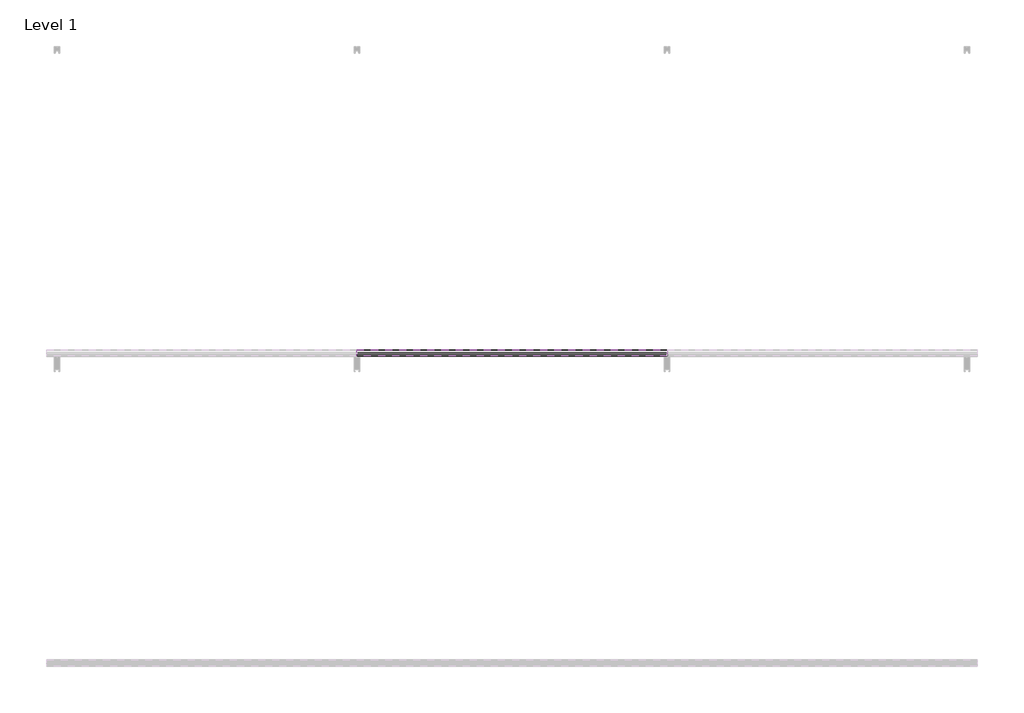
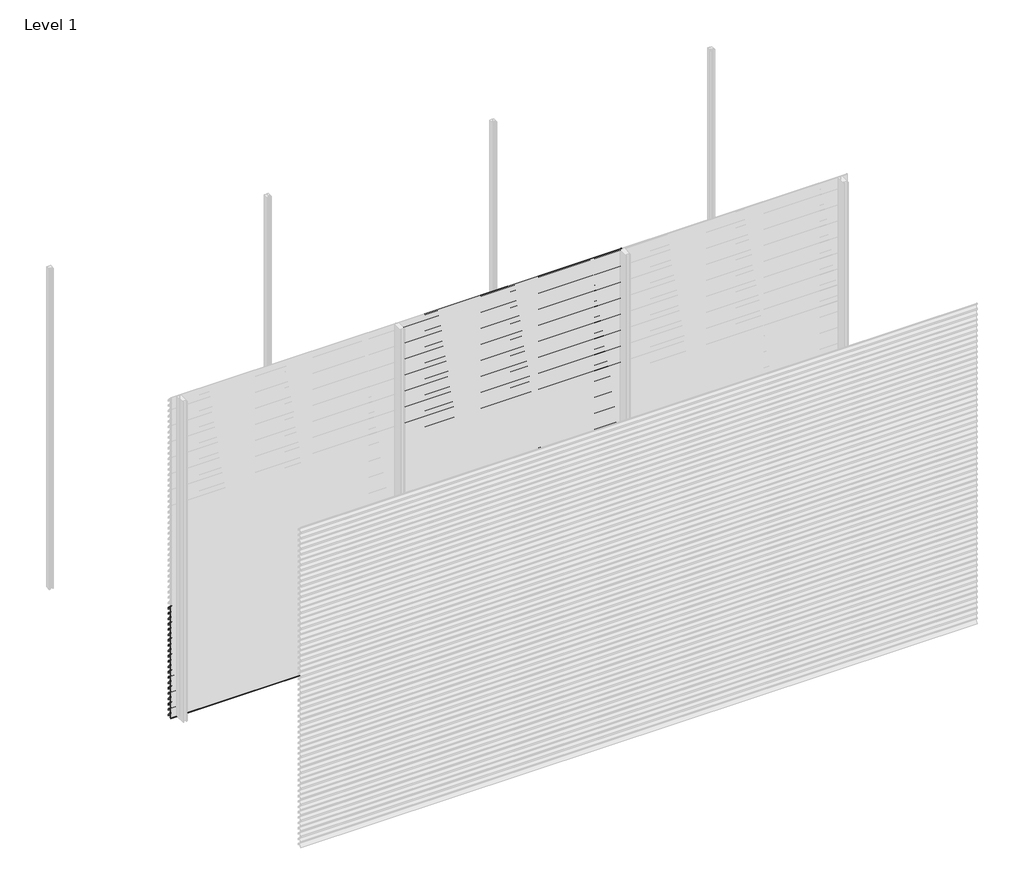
# One storey, part 26 of 38: 66 proxies.
"""IFC4 building model written with IfcOpenShell, lengths in millimetres."""

import ifcopenshell
import ifcopenshell.guid

model = None  # the IFC model being written
_history = None  # IfcOwnerHistory: only IFC2X3 demands one
_inside = {}  # id of a spatial element -> (the spatial element, [elements in it])
_under = {}  # id of a project, library or spatial element -> (it, [spatial elements below it])
_declared = {}  # id of a project -> (the project, [libraries it declares])
_typed = {}  # id of a type object -> (the type object, [elements of that type])
_made_of = {}  # id of a material, layer set ... -> (it, [elements and type objects made of it])


def new_model(schema):
    """Start an empty IFC model of exactly this schema.

    Asked for "IFC4X3", IfcOpenShell would pick the latest addendum, in which some entities
    have other attributes; the version numbers below select the first issue.
    IFC2X3 requires an IfcOwnerHistory on every rooted entity: one is made here for all.
    """
    global model, _history
    if schema == "IFC4X3":
        model = ifcopenshell.file(schema_version=(4, 3, 0, 0))
    else:
        model = ifcopenshell.file(schema=schema)
    _inside.clear()
    _under.clear()
    _declared.clear()
    _typed.clear()
    _made_of.clear()
    _history = None
    if model.schema == "IFC2X3":
        org = make("IfcOrganization", Name="unknown")
        user = make(
            "IfcPersonAndOrganization",
            ThePerson=make("IfcPerson", FamilyName="unknown"),
            TheOrganization=org,
        )
        app = make(
            "IfcApplication",
            ApplicationDeveloper=org,
            Version="unknown",
            ApplicationFullName="unknown",
            ApplicationIdentifier="unknown",
        )
        _history = make(
            "IfcOwnerHistory",
            OwningUser=user,
            OwningApplication=app,
            ChangeAction="ADDED",
            CreationDate=0,
        )
    return model


def make(cls, **values):
    """One entity of the class cls with the attributes given. An attribute that is None is left unset."""
    return model.create_entity(
        cls, **{name: value for name, value in values.items() if value is not None}
    )


def rooted(cls, **values):
    """An entity with a GlobalId (a new one), such as an element, a storey or a relation."""
    return make(cls, GlobalId=ifcopenshell.guid.new(), OwnerHistory=_history, **values)


def si_unit(unit_type, name, prefix=None):
    """IfcSIUnit, for example si_unit("LENGTHUNIT", "METRE", prefix="MILLI")."""
    return make("IfcSIUnit", UnitType=unit_type, Prefix=prefix, Name=name)


def assignment(units):
    """IfcUnitAssignment: the units of a project."""
    return None if units is None else make("IfcUnitAssignment", Units=units)


def point(xyz):
    """IfcCartesianPoint."""
    return None if xyz is None else make("IfcCartesianPoint", Coordinates=xyz)


def direction(xyz):
    """IfcDirection."""
    return None if xyz is None else make("IfcDirection", DirectionRatios=xyz)


def frame(location, z_axis=None, x_axis=None):
    """IfcAxis2Placement3D, a coordinate frame: its origin and axes. An axis left out is left unset."""
    return make(
        "IfcAxis2Placement3D",
        Location=point(location),
        Axis=direction(z_axis),
        RefDirection=direction(x_axis),
    )


def origin():
    """The frame at (0, 0, 0) with its axes left unset."""
    return frame((0.0, 0.0, 0.0))


def place(relative_to, where):
    """IfcLocalPlacement: puts the frame where relative to a parent placement (None: the world)."""
    return make(
        "IfcLocalPlacement", PlacementRelTo=relative_to, RelativePlacement=where
    )


def context(
    kind, dimensions, precision=None, world=None, true_north=None, identifier=None
):
    """IfcGeometricRepresentationContext, for example the 3D "Model" context."""
    return make(
        "IfcGeometricRepresentationContext",
        ContextIdentifier=identifier,
        ContextType=kind,
        CoordinateSpaceDimension=dimensions,
        Precision=precision,
        WorldCoordinateSystem=world,
        TrueNorth=true_north,
    )


def project(units=None, contexts=None):
    """IfcProject with its units and contexts."""
    return rooted(
        "IfcProject",
        Name="project",
        RepresentationContexts=contexts,
        UnitsInContext=assignment(units),
    )


def spatial(cls, under=None, at=None, **own):
    """A site, building, storey or space (cls), placed at a placement, below another one or the project."""
    s = rooted(cls, ObjectPlacement=at, **own)
    if under is not None:
        _under.setdefault(under.id(), (under, []))[1].append(s)
    return s


def polyline(points):
    """IfcPolyline through the points."""
    return make("IfcPolyline", Points=[point(p) for p in points])


def outline(outer, holes=None, kind="AREA"):
    """IfcArbitraryClosedProfileDef: a profile drawn as a closed curve; with holes, ...WithVoids."""
    if holes is None:
        return make("IfcArbitraryClosedProfileDef", ProfileType=kind, OuterCurve=outer)
    return make(
        "IfcArbitraryProfileDefWithVoids",
        ProfileType=kind,
        OuterCurve=outer,
        InnerCurves=holes,
    )


def extrude(swept, where, along, depth):
    """IfcExtrudedAreaSolid: the profile swept, set in the frame where, extruded along a direction by depth."""
    return make(
        "IfcExtrudedAreaSolid",
        SweptArea=swept,
        Position=where,
        ExtrudedDirection=direction(along),
        Depth=depth,
    )


def shape(context_of_items, identifier, shape_type, items):
    """IfcShapeRepresentation: the items that make up one representation, for example the "Body"."""
    return make(
        "IfcShapeRepresentation",
        ContextOfItems=context_of_items,
        RepresentationIdentifier=identifier,
        RepresentationType=shape_type,
        Items=items,
    )


def made_of(thing, what):
    """Note that an element or type object is made of a material, layer set ...; save() writes the relation."""
    if what is not None:
        _made_of.setdefault(what.id(), (what, []))[1].append(thing)
    return thing


def element(
    cls,
    number,
    at=None,
    inside=None,
    cuts=None,
    type_object=None,
    material=None,
    context=None,
    identifier="Body",
    shape_type=None,
    held_by="IfcProductDefinitionShape",
    body=None,
    shapes=None,
    **own,
):
    """One element of the class cls, such as IfcWall. Its Tag is "e" and its number.

    at: its placement. inside: the storey or other place that contains it. cuts: it is an
    opening in that element (IfcRelVoidsElement). A single representation is given by context,
    identifier, shape_type and body (its items); several are given by shapes. held_by: the class
    of the entity that holds the representations. save() writes the other relations.
    """
    e = rooted(cls, Tag="e%d" % number, ObjectPlacement=at, **own)
    if body is not None:
        shapes = [shape(context, identifier, shape_type, body)]
    if shapes is not None:
        e.Representation = make(held_by, Representations=shapes)
    if inside is not None:
        _inside.setdefault(inside.id(), (inside, []))[1].append(e)
    if cuts is not None:
        rooted(
            "IfcRelVoidsElement", RelatingBuildingElement=cuts, RelatedOpeningElement=e
        )
    if type_object is not None:
        _typed.setdefault(type_object.id(), (type_object, []))[1].append(e)
    return made_of(e, material)


def aggregate(whole, parts):
    """IfcRelAggregates: a whole, such as a stair, and the parts it consists of."""
    return rooted("IfcRelAggregates", RelatingObject=whole, RelatedObjects=parts)


def save(model, path):
    """Write the relations noted so far, then the file.

    IfcRelAggregates (storeys below a building ...), IfcRelContainedInSpatialStructure (elements
    in a storey), IfcRelDefinesByType, IfcRelAssociatesMaterial and IfcRelDeclares: one each for
    every whole, place, type object, material and project.
    """
    for whole, parts in _under.values():
        aggregate(whole, parts)
    for where, things in _inside.values():
        rooted(
            "IfcRelContainedInSpatialStructure",
            RelatedElements=things,
            RelatingStructure=where,
        )
    for kind, things in _typed.values():
        rooted("IfcRelDefinesByType", RelatedObjects=things, RelatingType=kind)
    for what, things in _made_of.values():
        rooted("IfcRelAssociatesMaterial", RelatedObjects=things, RelatingMaterial=what)
    for by, libraries in _declared.values():
        rooted("IfcRelDeclares", RelatingContext=by, RelatedDefinitions=libraries)
    model.write(path)


model = new_model("IFC4")

# Units and contexts
model_context = context("Model", 3, world=origin())
ifc_project = project(units=[si_unit("LENGTHUNIT", "METRE", prefix="MILLI")], contexts=[model_context])

# Site, building, storey
site = spatial("IfcSite", under=ifc_project)
building = spatial("IfcBuilding", under=site)
storey = spatial("IfcBuildingStorey", under=building, Name="Level 1", Elevation=0.0)

# Proxies
placement = place(None, origin())
element("IfcBuildingElementProxy", 1, Name="Wall Sweeps", at=placement, inside=storey, context=model_context, shape_type="SweptSolid", body=[
    extrude(outline(polyline([(-17996.75, 1050.0), (-17996.75, 1039.19656), (-17974.6057113, 1026.4115489), (-17957.0, 1009.0472005), (-17957.0, 994.0472005), (-17958.3, 995.0268207), (-17958.3, 1008.5034593), (-17969.4914725, 1019.541504), (-17994.2797376, 990.0), (-17995.9767671, 990.0), (-17970.4200307, 1020.4573323), (-17975.3999793, 1025.3690091), (-17998.0, 1038.4171371), (-17998.0, 1050.0), (-17996.75, 1050.0)])), frame((0.0, 0.0, 0.0), z_axis=(1.0, 0.0, 0.0), x_axis=(0.0, 1.0, 0.0)), (0.0, 0.0, 1.0), 2000.0),
])
element("IfcBuildingElementProxy", 2, Name="Wall Sweeps", at=placement, inside=storey, context=model_context, shape_type="SweptSolid", body=[
    extrude(outline(polyline([(-17996.75, 1000.0), (-17996.75, 989.19656), (-17974.6057113, 976.4115489), (-17957.0, 959.0472005), (-17957.0, 944.0472005), (-17958.3, 945.0268207), (-17958.3, 958.5034593), (-17969.4914725, 969.541504), (-17994.2797376, 940.0), (-17995.9767671, 940.0), (-17970.4200307, 970.4573323), (-17975.3999793, 975.3690091), (-17998.0, 988.4171371), (-17998.0, 1000.0), (-17996.75, 1000.0)])), frame((0.0, 0.0, 0.0), z_axis=(1.0, 0.0, 0.0), x_axis=(0.0, 1.0, 0.0)), (0.0, 0.0, 1.0), 2000.0),
])
element("IfcBuildingElementProxy", 3, Name="Wall Sweeps", at=placement, inside=storey, context=model_context, shape_type="SweptSolid", body=[
    extrude(outline(polyline([(-17996.75, 950.0), (-17996.75, 939.19656), (-17974.6057113, 926.4115489), (-17957.0, 909.0472005), (-17957.0, 894.0472005), (-17958.3, 895.0268207), (-17958.3, 908.5034593), (-17969.4914725, 919.541504), (-17994.2797376, 890.0), (-17995.9767671, 890.0), (-17970.4200307, 920.4573323), (-17975.3999793, 925.3690091), (-17998.0, 938.4171371), (-17998.0, 950.0), (-17996.75, 950.0)])), frame((0.0, 0.0, 0.0), z_axis=(1.0, 0.0, 0.0), x_axis=(0.0, 1.0, 0.0)), (0.0, 0.0, 1.0), 2000.0),
])
element("IfcBuildingElementProxy", 4, Name="Wall Sweeps", at=placement, inside=storey, context=model_context, shape_type="SweptSolid", body=[
    extrude(outline(polyline([(-17996.75, 900.0), (-17996.75, 889.19656), (-17974.6057113, 876.4115489), (-17957.0, 859.0472005), (-17957.0, 844.0472005), (-17958.3, 845.0268207), (-17958.3, 858.5034593), (-17969.4914725, 869.541504), (-17994.2797376, 840.0), (-17995.9767671, 840.0), (-17970.4200307, 870.4573323), (-17975.3999793, 875.3690091), (-17998.0, 888.4171371), (-17998.0, 900.0), (-17996.75, 900.0)])), frame((0.0, 0.0, 0.0), z_axis=(1.0, 0.0, 0.0), x_axis=(0.0, 1.0, 0.0)), (0.0, 0.0, 1.0), 2000.0),
])
element("IfcBuildingElementProxy", 5, Name="Wall Sweeps", at=placement, inside=storey, context=model_context, shape_type="SweptSolid", body=[
    extrude(outline(polyline([(-17996.75, 850.0), (-17996.75, 839.19656), (-17974.6057113, 826.4115489), (-17957.0, 809.0472005), (-17957.0, 794.0472005), (-17958.3, 795.0268207), (-17958.3, 808.5034593), (-17969.4914725, 819.541504), (-17994.2797376, 790.0), (-17995.9767671, 790.0), (-17970.4200307, 820.4573323), (-17975.3999793, 825.3690091), (-17998.0, 838.4171371), (-17998.0, 850.0), (-17996.75, 850.0)])), frame((0.0, 0.0, 0.0), z_axis=(1.0, 0.0, 0.0), x_axis=(0.0, 1.0, 0.0)), (0.0, 0.0, 1.0), 2000.0),
])
element("IfcBuildingElementProxy", 6, Name="Wall Sweeps", at=placement, inside=storey, context=model_context, shape_type="SweptSolid", body=[
    extrude(outline(polyline([(-17996.75, 800.0), (-17996.75, 789.19656), (-17974.6057113, 776.4115489), (-17957.0, 759.0472005), (-17957.0, 744.0472005), (-17958.3, 745.0268207), (-17958.3, 758.5034593), (-17969.4914725, 769.541504), (-17994.2797376, 740.0), (-17995.9767671, 740.0), (-17970.4200307, 770.4573323), (-17975.3999793, 775.3690091), (-17998.0, 788.4171371), (-17998.0, 800.0), (-17996.75, 800.0)])), frame((0.0, 0.0, 0.0), z_axis=(1.0, 0.0, 0.0), x_axis=(0.0, 1.0, 0.0)), (0.0, 0.0, 1.0), 2000.0),
])
element("IfcBuildingElementProxy", 7, Name="Wall Sweeps", at=placement, inside=storey, context=model_context, shape_type="SweptSolid", body=[
    extrude(outline(polyline([(-17996.75, 750.0), (-17996.75, 739.19656), (-17974.6057113, 726.4115489), (-17957.0, 709.0472005), (-17957.0, 694.0472005), (-17958.3, 695.0268207), (-17958.3, 708.5034593), (-17969.4914725, 719.541504), (-17994.2797376, 690.0), (-17995.9767671, 690.0), (-17970.4200307, 720.4573323), (-17975.3999793, 725.3690091), (-17998.0, 738.4171371), (-17998.0, 750.0), (-17996.75, 750.0)])), frame((0.0, 0.0, 0.0), z_axis=(1.0, 0.0, 0.0), x_axis=(0.0, 1.0, 0.0)), (0.0, 0.0, 1.0), 2000.0),
])
element("IfcBuildingElementProxy", 8, Name="Wall Sweeps", at=placement, inside=storey, context=model_context, shape_type="SweptSolid", body=[
    extrude(outline(polyline([(-17996.75, 700.0), (-17996.75, 689.19656), (-17974.6057113, 676.4115489), (-17957.0, 659.0472005), (-17957.0, 644.0472005), (-17958.3, 645.0268207), (-17958.3, 658.5034593), (-17969.4914725, 669.541504), (-17994.2797376, 640.0), (-17995.9767671, 640.0), (-17970.4200307, 670.4573323), (-17975.3999793, 675.3690091), (-17998.0, 688.4171371), (-17998.0, 700.0), (-17996.75, 700.0)])), frame((0.0, 0.0, 0.0), z_axis=(1.0, 0.0, 0.0), x_axis=(0.0, 1.0, 0.0)), (0.0, 0.0, 1.0), 2000.0),
])
element("IfcBuildingElementProxy", 9, Name="Wall Sweeps", at=placement, inside=storey, context=model_context, shape_type="SweptSolid", body=[
    extrude(outline(polyline([(-17996.75, 650.0), (-17996.75, 639.19656), (-17974.6057113, 626.4115489), (-17957.0, 609.0472005), (-17957.0, 594.0472005), (-17958.3, 595.0268207), (-17958.3, 608.5034593), (-17969.4914725, 619.541504), (-17994.2797376, 590.0), (-17995.9767671, 590.0), (-17970.4200307, 620.4573323), (-17975.3999793, 625.3690091), (-17998.0, 638.4171371), (-17998.0, 650.0), (-17996.75, 650.0)])), frame((0.0, 0.0, 0.0), z_axis=(1.0, 0.0, 0.0), x_axis=(0.0, 1.0, 0.0)), (0.0, 0.0, 1.0), 2000.0),
])
element("IfcBuildingElementProxy", 10, Name="Wall Sweeps", at=placement, inside=storey, context=model_context, shape_type="SweptSolid", body=[
    extrude(outline(polyline([(-17996.75, 600.0), (-17996.75, 589.19656), (-17974.6057113, 576.4115489), (-17957.0, 559.0472005), (-17957.0, 544.0472005), (-17958.3, 545.0268207), (-17958.3, 558.5034593), (-17969.4914725, 569.541504), (-17994.2797376, 540.0), (-17995.9767671, 540.0), (-17970.4200307, 570.4573323), (-17975.3999793, 575.3690091), (-17998.0, 588.4171371), (-17998.0, 600.0), (-17996.75, 600.0)])), frame((0.0, 0.0, 0.0), z_axis=(1.0, 0.0, 0.0), x_axis=(0.0, 1.0, 0.0)), (0.0, 0.0, 1.0), 2000.0),
])
element("IfcBuildingElementProxy", 11, Name="Wall Sweeps", at=placement, inside=storey, context=model_context, shape_type="SweptSolid", body=[
    extrude(outline(polyline([(-17996.75, 550.0), (-17996.75, 539.19656), (-17974.6057113, 526.4115489), (-17957.0, 509.0472005), (-17957.0, 494.0472005), (-17958.3, 495.0268207), (-17958.3, 508.5034593), (-17969.4914725, 519.541504), (-17994.2797376, 490.0), (-17995.9767671, 490.0), (-17970.4200307, 520.4573323), (-17975.3999793, 525.3690091), (-17998.0, 538.4171371), (-17998.0, 550.0), (-17996.75, 550.0)])), frame((0.0, 0.0, 0.0), z_axis=(1.0, 0.0, 0.0), x_axis=(0.0, 1.0, 0.0)), (0.0, 0.0, 1.0), 2000.0),
])
element("IfcBuildingElementProxy", 12, Name="Wall Sweeps", at=placement, inside=storey, context=model_context, shape_type="SweptSolid", body=[
    extrude(outline(polyline([(-17996.75, 500.0), (-17996.75, 489.19656), (-17974.6057113, 476.4115489), (-17957.0, 459.0472005), (-17957.0, 444.0472005), (-17958.3, 445.0268207), (-17958.3, 458.5034593), (-17969.4914725, 469.541504), (-17994.2797376, 440.0), (-17995.9767671, 440.0), (-17970.4200307, 470.4573323), (-17975.3999793, 475.3690091), (-17998.0, 488.4171371), (-17998.0, 500.0), (-17996.75, 500.0)])), frame((0.0, 0.0, 0.0), z_axis=(1.0, 0.0, 0.0), x_axis=(0.0, 1.0, 0.0)), (0.0, 0.0, 1.0), 2000.0),
])
element("IfcBuildingElementProxy", 13, Name="Wall Sweeps", at=placement, inside=storey, context=model_context, shape_type="SweptSolid", body=[
    extrude(outline(polyline([(-17996.75, 450.0), (-17996.75, 439.19656), (-17974.6057113, 426.4115489), (-17957.0, 409.0472005), (-17957.0, 394.0472005), (-17958.3, 395.0268207), (-17958.3, 408.5034593), (-17969.4914725, 419.541504), (-17994.2797376, 390.0), (-17995.9767671, 390.0), (-17970.4200307, 420.4573323), (-17975.3999793, 425.3690091), (-17998.0, 438.4171371), (-17998.0, 450.0), (-17996.75, 450.0)])), frame((0.0, 0.0, 0.0), z_axis=(1.0, 0.0, 0.0), x_axis=(0.0, 1.0, 0.0)), (0.0, 0.0, 1.0), 2000.0),
])
element("IfcBuildingElementProxy", 14, Name="Wall Sweeps", at=placement, inside=storey, context=model_context, shape_type="SweptSolid", body=[
    extrude(outline(polyline([(-17996.75, 400.0), (-17996.75, 389.19656), (-17974.6057113, 376.4115489), (-17957.0, 359.0472005), (-17957.0, 344.0472005), (-17958.3, 345.0268207), (-17958.3, 358.5034593), (-17969.4914725, 369.541504), (-17994.2797376, 340.0), (-17995.9767671, 340.0), (-17970.4200307, 370.4573323), (-17975.3999793, 375.3690091), (-17998.0, 388.4171371), (-17998.0, 400.0), (-17996.75, 400.0)])), frame((0.0, 0.0, 0.0), z_axis=(1.0, 0.0, 0.0), x_axis=(0.0, 1.0, 0.0)), (0.0, 0.0, 1.0), 2000.0),
])
element("IfcBuildingElementProxy", 15, Name="Wall Sweeps", at=placement, inside=storey, context=model_context, shape_type="SweptSolid", body=[
    extrude(outline(polyline([(-17996.75, 350.0), (-17996.75, 339.19656), (-17974.6057113, 326.4115489), (-17957.0, 309.0472005), (-17957.0, 294.0472005), (-17958.3, 295.0268207), (-17958.3, 308.5034593), (-17969.4914725, 319.541504), (-17994.2797376, 290.0), (-17995.9767671, 290.0), (-17970.4200307, 320.4573323), (-17975.3999793, 325.3690091), (-17998.0, 338.4171371), (-17998.0, 350.0), (-17996.75, 350.0)])), frame((0.0, 0.0, 0.0), z_axis=(1.0, 0.0, 0.0), x_axis=(0.0, 1.0, 0.0)), (0.0, 0.0, 1.0), 2000.0),
])
element("IfcBuildingElementProxy", 16, Name="Wall Sweeps", at=placement, inside=storey, context=model_context, shape_type="SweptSolid", body=[
    extrude(outline(polyline([(-17996.75, 300.0), (-17996.75, 289.19656), (-17974.6057113, 276.4115489), (-17957.0, 259.0472005), (-17957.0, 244.0472005), (-17958.3, 245.0268207), (-17958.3, 258.5034593), (-17969.4914725, 269.541504), (-17994.2797376, 240.0), (-17995.9767671, 240.0), (-17970.4200307, 270.4573323), (-17975.3999793, 275.3690091), (-17998.0, 288.4171371), (-17998.0, 300.0), (-17996.75, 300.0)])), frame((0.0, 0.0, 0.0), z_axis=(1.0, 0.0, 0.0), x_axis=(0.0, 1.0, 0.0)), (0.0, 0.0, 1.0), 2000.0),
])
element("IfcBuildingElementProxy", 17, Name="Wall Sweeps", at=placement, inside=storey, context=model_context, shape_type="SweptSolid", body=[
    extrude(outline(polyline([(-17996.75, 250.0), (-17996.75, 239.19656), (-17974.6057113, 226.4115489), (-17957.0, 209.0472005), (-17957.0, 194.0472005), (-17958.3, 195.0268207), (-17958.3, 208.5034593), (-17969.4914725, 219.541504), (-17994.2797376, 190.0), (-17995.9767671, 190.0), (-17970.4200307, 220.4573323), (-17975.3999793, 225.3690091), (-17998.0, 238.4171371), (-17998.0, 250.0), (-17996.75, 250.0)])), frame((0.0, 0.0, 0.0), z_axis=(1.0, 0.0, 0.0), x_axis=(0.0, 1.0, 0.0)), (0.0, 0.0, 1.0), 2000.0),
])
element("IfcBuildingElementProxy", 18, Name="Wall Sweeps", at=placement, inside=storey, context=model_context, shape_type="SweptSolid", body=[
    extrude(outline(polyline([(-17996.75, 200.0), (-17996.75, 189.19656), (-17974.6057113, 176.4115489), (-17957.0, 159.0472005), (-17957.0, 144.0472005), (-17958.3, 145.0268207), (-17958.3, 158.5034593), (-17969.4914725, 169.541504), (-17994.2797376, 140.0), (-17995.9767671, 140.0), (-17970.4200307, 170.4573323), (-17975.3999793, 175.3690091), (-17998.0, 188.4171371), (-17998.0, 200.0), (-17996.75, 200.0)])), frame((0.0, 0.0, 0.0), z_axis=(1.0, 0.0, 0.0), x_axis=(0.0, 1.0, 0.0)), (0.0, 0.0, 1.0), 2000.0),
])
element("IfcBuildingElementProxy", 19, Name="Wall Sweeps", at=placement, inside=storey, context=model_context, shape_type="SweptSolid", body=[
    extrude(outline(polyline([(-17996.75, 150.0), (-17996.75, 139.19656), (-17974.6057113, 126.4115489), (-17957.0, 109.0472005), (-17957.0, 94.0472005), (-17958.3, 95.0268207), (-17958.3, 108.5034593), (-17969.4914725, 119.541504), (-17994.2797376, 90.0), (-17995.9767671, 90.0), (-17970.4200307, 120.4573323), (-17975.3999793, 125.3690091), (-17998.0, 138.4171371), (-17998.0, 150.0), (-17996.75, 150.0)])), frame((0.0, 0.0, 0.0), z_axis=(1.0, 0.0, 0.0), x_axis=(0.0, 1.0, 0.0)), (0.0, 0.0, 1.0), 2000.0),
])
element("IfcBuildingElementProxy", 20, Name="Wall Sweeps", at=placement, inside=storey, context=model_context, shape_type="SweptSolid", body=[
    extrude(outline(polyline([(-17996.75, 100.0), (-17996.75, 89.19656), (-17974.6057113, 76.4115489), (-17957.0, 59.0472005), (-17957.0, 44.0472005), (-17958.3, 45.0268207), (-17958.3, 58.5034593), (-17969.4914725, 69.541504), (-17994.2797376, 40.0), (-17995.9767671, 40.0), (-17970.4200307, 70.4573323), (-17975.3999793, 75.3690091), (-17998.0, 88.4171371), (-17998.0, 100.0), (-17996.75, 100.0)])), frame((0.0, 0.0, 0.0), z_axis=(1.0, 0.0, 0.0), x_axis=(0.0, 1.0, 0.0)), (0.0, 0.0, 1.0), 2000.0),
])
element("IfcBuildingElementProxy", 21, Name="Wall Sweeps", at=placement, inside=storey, context=model_context, shape_type="SweptSolid", body=[
    extrude(outline(polyline([(-17996.75, 50.0), (-17996.75, 39.19656), (-17974.6057113, 26.4115489), (-17957.0, 9.0472005), (-17957.0, -5.9527995), (-17958.3, -4.9731793), (-17958.3, 8.5034593), (-17969.4914725, 19.541504), (-17994.2797376, -10.0), (-17995.9767671, -10.0), (-17970.4200307, 20.4573323), (-17975.3999793, 25.3690091), (-17998.0, 38.4171371), (-17998.0, 50.0), (-17996.75, 50.0)])), frame((0.0, 0.0, 0.0), z_axis=(1.0, 0.0, 0.0), x_axis=(0.0, 1.0, 0.0)), (0.0, 0.0, 1.0), 2000.0),
])
element("IfcBuildingElementProxy", 22, Name="Wall Sweeps", at=placement, inside=storey, context=model_context, shape_type="SweptSolid", body=[
    extrude(outline(polyline([(-17996.75, 3000.0), (-17996.75, 2989.19656), (-17974.6057113, 2976.4115489), (-17957.0, 2959.0472005), (-17957.0, 2944.0472005), (-17958.3, 2945.0268207), (-17958.3, 2958.5034593), (-17969.4914725, 2969.541504), (-17994.2797376, 2940.0), (-17995.9767671, 2940.0), (-17970.4200307, 2970.4573323), (-17975.3999793, 2975.3690091), (-17998.0, 2988.4171371), (-17998.0, 3000.0), (-17996.75, 3000.0)])), frame((2000.0, 0.0, 0.0), z_axis=(1.0, 0.0, 0.0), x_axis=(0.0, 1.0, 0.0)), (0.0, 0.0, 1.0), 2000.0),
])
element("IfcBuildingElementProxy", 23, Name="Wall Sweeps", at=placement, inside=storey, context=model_context, shape_type="SweptSolid", body=[
    extrude(outline(polyline([(-17996.75, 2950.0), (-17996.75, 2939.19656), (-17974.6057113, 2926.4115489), (-17957.0, 2909.0472005), (-17957.0, 2894.0472005), (-17958.3, 2895.0268207), (-17958.3, 2908.5034593), (-17969.4914725, 2919.541504), (-17994.2797376, 2890.0), (-17995.9767671, 2890.0), (-17970.4200307, 2920.4573323), (-17975.3999793, 2925.3690091), (-17998.0, 2938.4171371), (-17998.0, 2950.0), (-17996.75, 2950.0)])), frame((2000.0, 0.0, 0.0), z_axis=(1.0, 0.0, 0.0), x_axis=(0.0, 1.0, 0.0)), (0.0, 0.0, 1.0), 2000.0),
])
element("IfcBuildingElementProxy", 24, Name="Wall Sweeps", at=placement, inside=storey, context=model_context, shape_type="SweptSolid", body=[
    extrude(outline(polyline([(-17996.75, 2900.0), (-17996.75, 2889.19656), (-17974.6057113, 2876.4115489), (-17957.0, 2859.0472005), (-17957.0, 2844.0472005), (-17958.3, 2845.0268207), (-17958.3, 2858.5034593), (-17969.4914725, 2869.541504), (-17994.2797376, 2840.0), (-17995.9767671, 2840.0), (-17970.4200307, 2870.4573323), (-17975.3999793, 2875.3690091), (-17998.0, 2888.4171371), (-17998.0, 2900.0), (-17996.75, 2900.0)])), frame((2000.0, 0.0, 0.0), z_axis=(1.0, 0.0, 0.0), x_axis=(0.0, 1.0, 0.0)), (0.0, 0.0, 1.0), 2000.0),
])
element("IfcBuildingElementProxy", 25, Name="Wall Sweeps", at=placement, inside=storey, context=model_context, shape_type="SweptSolid", body=[
    extrude(outline(polyline([(-17996.75, 2850.0), (-17996.75, 2839.19656), (-17974.6057113, 2826.4115489), (-17957.0, 2809.0472005), (-17957.0, 2794.0472005), (-17958.3, 2795.0268207), (-17958.3, 2808.5034593), (-17969.4914725, 2819.541504), (-17994.2797376, 2790.0), (-17995.9767671, 2790.0), (-17970.4200307, 2820.4573323), (-17975.3999793, 2825.3690091), (-17998.0, 2838.4171371), (-17998.0, 2850.0), (-17996.75, 2850.0)])), frame((2000.0, 0.0, 0.0), z_axis=(1.0, 0.0, 0.0), x_axis=(0.0, 1.0, 0.0)), (0.0, 0.0, 1.0), 2000.0),
])
element("IfcBuildingElementProxy", 26, Name="Wall Sweeps", at=placement, inside=storey, context=model_context, shape_type="SweptSolid", body=[
    extrude(outline(polyline([(-17996.75, 2800.0), (-17996.75, 2789.19656), (-17974.6057113, 2776.4115489), (-17957.0, 2759.0472005), (-17957.0, 2744.0472005), (-17958.3, 2745.0268207), (-17958.3, 2758.5034593), (-17969.4914725, 2769.541504), (-17994.2797376, 2740.0), (-17995.9767671, 2740.0), (-17970.4200307, 2770.4573323), (-17975.3999793, 2775.3690091), (-17998.0, 2788.4171371), (-17998.0, 2800.0), (-17996.75, 2800.0)])), frame((2000.0, 0.0, 0.0), z_axis=(1.0, 0.0, 0.0), x_axis=(0.0, 1.0, 0.0)), (0.0, 0.0, 1.0), 2000.0),
])
element("IfcBuildingElementProxy", 27, Name="Wall Sweeps", at=placement, inside=storey, context=model_context, shape_type="SweptSolid", body=[
    extrude(outline(polyline([(-17996.75, 2750.0), (-17996.75, 2739.19656), (-17974.6057113, 2726.4115489), (-17957.0, 2709.0472005), (-17957.0, 2694.0472005), (-17958.3, 2695.0268207), (-17958.3, 2708.5034593), (-17969.4914725, 2719.541504), (-17994.2797376, 2690.0), (-17995.9767671, 2690.0), (-17970.4200307, 2720.4573323), (-17975.3999793, 2725.3690091), (-17998.0, 2738.4171371), (-17998.0, 2750.0), (-17996.75, 2750.0)])), frame((2000.0, 0.0, 0.0), z_axis=(1.0, 0.0, 0.0), x_axis=(0.0, 1.0, 0.0)), (0.0, 0.0, 1.0), 2000.0),
])
element("IfcBuildingElementProxy", 28, Name="Wall Sweeps", at=placement, inside=storey, context=model_context, shape_type="SweptSolid", body=[
    extrude(outline(polyline([(-17996.75, 2700.0), (-17996.75, 2689.19656), (-17974.6057113, 2676.4115489), (-17957.0, 2659.0472005), (-17957.0, 2644.0472005), (-17958.3, 2645.0268207), (-17958.3, 2658.5034593), (-17969.4914725, 2669.541504), (-17994.2797376, 2640.0), (-17995.9767671, 2640.0), (-17970.4200307, 2670.4573323), (-17975.3999793, 2675.3690091), (-17998.0, 2688.4171371), (-17998.0, 2700.0), (-17996.75, 2700.0)])), frame((2000.0, 0.0, 0.0), z_axis=(1.0, 0.0, 0.0), x_axis=(0.0, 1.0, 0.0)), (0.0, 0.0, 1.0), 2000.0),
])
element("IfcBuildingElementProxy", 29, Name="Wall Sweeps", at=placement, inside=storey, context=model_context, shape_type="SweptSolid", body=[
    extrude(outline(polyline([(-17996.75, 2650.0), (-17996.75, 2639.19656), (-17974.6057113, 2626.4115489), (-17957.0, 2609.0472005), (-17957.0, 2594.0472005), (-17958.3, 2595.0268207), (-17958.3, 2608.5034593), (-17969.4914725, 2619.541504), (-17994.2797376, 2590.0), (-17995.9767671, 2590.0), (-17970.4200307, 2620.4573323), (-17975.3999793, 2625.3690091), (-17998.0, 2638.4171371), (-17998.0, 2650.0), (-17996.75, 2650.0)])), frame((2000.0, 0.0, 0.0), z_axis=(1.0, 0.0, 0.0), x_axis=(0.0, 1.0, 0.0)), (0.0, 0.0, 1.0), 2000.0),
])
element("IfcBuildingElementProxy", 30, Name="Wall Sweeps", at=placement, inside=storey, context=model_context, shape_type="SweptSolid", body=[
    extrude(outline(polyline([(-17996.75, 2600.0), (-17996.75, 2589.19656), (-17974.6057113, 2576.4115489), (-17957.0, 2559.0472005), (-17957.0, 2544.0472005), (-17958.3, 2545.0268207), (-17958.3, 2558.5034593), (-17969.4914725, 2569.541504), (-17994.2797376, 2540.0), (-17995.9767671, 2540.0), (-17970.4200307, 2570.4573323), (-17975.3999793, 2575.3690091), (-17998.0, 2588.4171371), (-17998.0, 2600.0), (-17996.75, 2600.0)])), frame((2000.0, 0.0, 0.0), z_axis=(1.0, 0.0, 0.0), x_axis=(0.0, 1.0, 0.0)), (0.0, 0.0, 1.0), 2000.0),
])
element("IfcBuildingElementProxy", 31, Name="Wall Sweeps", at=placement, inside=storey, context=model_context, shape_type="SweptSolid", body=[
    extrude(outline(polyline([(-17996.75, 2550.0), (-17996.75, 2539.19656), (-17974.6057113, 2526.4115489), (-17957.0, 2509.0472005), (-17957.0, 2494.0472005), (-17958.3, 2495.0268207), (-17958.3, 2508.5034593), (-17969.4914725, 2519.541504), (-17994.2797376, 2490.0), (-17995.9767671, 2490.0), (-17970.4200307, 2520.4573323), (-17975.3999793, 2525.3690091), (-17998.0, 2538.4171371), (-17998.0, 2550.0), (-17996.75, 2550.0)])), frame((2000.0, 0.0, 0.0), z_axis=(1.0, 0.0, 0.0), x_axis=(0.0, 1.0, 0.0)), (0.0, 0.0, 1.0), 2000.0),
])
element("IfcBuildingElementProxy", 32, Name="Wall Sweeps", at=placement, inside=storey, context=model_context, shape_type="SweptSolid", body=[
    extrude(outline(polyline([(-17996.75, 2500.0), (-17996.75, 2489.19656), (-17974.6057113, 2476.4115489), (-17957.0, 2459.0472005), (-17957.0, 2444.0472005), (-17958.3, 2445.0268207), (-17958.3, 2458.5034593), (-17969.4914725, 2469.541504), (-17994.2797376, 2440.0), (-17995.9767671, 2440.0), (-17970.4200307, 2470.4573323), (-17975.3999793, 2475.3690091), (-17998.0, 2488.4171371), (-17998.0, 2500.0), (-17996.75, 2500.0)])), frame((2000.0, 0.0, 0.0), z_axis=(1.0, 0.0, 0.0), x_axis=(0.0, 1.0, 0.0)), (0.0, 0.0, 1.0), 2000.0),
])
element("IfcBuildingElementProxy", 33, Name="Wall Sweeps", at=placement, inside=storey, context=model_context, shape_type="SweptSolid", body=[
    extrude(outline(polyline([(-17996.75, 2450.0), (-17996.75, 2439.19656), (-17974.6057113, 2426.4115489), (-17957.0, 2409.0472005), (-17957.0, 2394.0472005), (-17958.3, 2395.0268207), (-17958.3, 2408.5034593), (-17969.4914725, 2419.541504), (-17994.2797376, 2390.0), (-17995.9767671, 2390.0), (-17970.4200307, 2420.4573323), (-17975.3999793, 2425.3690091), (-17998.0, 2438.4171371), (-17998.0, 2450.0), (-17996.75, 2450.0)])), frame((2000.0, 0.0, 0.0), z_axis=(1.0, 0.0, 0.0), x_axis=(0.0, 1.0, 0.0)), (0.0, 0.0, 1.0), 2000.0),
])
element("IfcBuildingElementProxy", 34, Name="Wall Sweeps", at=placement, inside=storey, context=model_context, shape_type="SweptSolid", body=[
    extrude(outline(polyline([(-17996.75, 2400.0), (-17996.75, 2389.19656), (-17974.6057113, 2376.4115489), (-17957.0, 2359.0472005), (-17957.0, 2344.0472005), (-17958.3, 2345.0268207), (-17958.3, 2358.5034593), (-17969.4914725, 2369.541504), (-17994.2797376, 2340.0), (-17995.9767671, 2340.0), (-17970.4200307, 2370.4573323), (-17975.3999793, 2375.3690091), (-17998.0, 2388.4171371), (-17998.0, 2400.0), (-17996.75, 2400.0)])), frame((2000.0, 0.0, 0.0), z_axis=(1.0, 0.0, 0.0), x_axis=(0.0, 1.0, 0.0)), (0.0, 0.0, 1.0), 2000.0),
])
element("IfcBuildingElementProxy", 35, Name="Wall Sweeps", at=placement, inside=storey, context=model_context, shape_type="SweptSolid", body=[
    extrude(outline(polyline([(-17996.75, 2350.0), (-17996.75, 2339.19656), (-17974.6057113, 2326.4115489), (-17957.0, 2309.0472005), (-17957.0, 2294.0472005), (-17958.3, 2295.0268207), (-17958.3, 2308.5034593), (-17969.4914725, 2319.541504), (-17994.2797376, 2290.0), (-17995.9767671, 2290.0), (-17970.4200307, 2320.4573323), (-17975.3999793, 2325.3690091), (-17998.0, 2338.4171371), (-17998.0, 2350.0), (-17996.75, 2350.0)])), frame((2000.0, 0.0, 0.0), z_axis=(1.0, 0.0, 0.0), x_axis=(0.0, 1.0, 0.0)), (0.0, 0.0, 1.0), 2000.0),
])
element("IfcBuildingElementProxy", 36, Name="Wall Sweeps", at=placement, inside=storey, context=model_context, shape_type="SweptSolid", body=[
    extrude(outline(polyline([(-17996.75, 2300.0), (-17996.75, 2289.19656), (-17974.6057113, 2276.4115489), (-17957.0, 2259.0472005), (-17957.0, 2244.0472005), (-17958.3, 2245.0268207), (-17958.3, 2258.5034593), (-17969.4914725, 2269.541504), (-17994.2797376, 2240.0), (-17995.9767671, 2240.0), (-17970.4200307, 2270.4573323), (-17975.3999793, 2275.3690091), (-17998.0, 2288.4171371), (-17998.0, 2300.0), (-17996.75, 2300.0)])), frame((2000.0, 0.0, 0.0), z_axis=(1.0, 0.0, 0.0), x_axis=(0.0, 1.0, 0.0)), (0.0, 0.0, 1.0), 2000.0),
])
element("IfcBuildingElementProxy", 37, Name="Wall Sweeps", at=placement, inside=storey, context=model_context, shape_type="SweptSolid", body=[
    extrude(outline(polyline([(-17996.75, 2250.0), (-17996.75, 2239.19656), (-17974.6057113, 2226.4115489), (-17957.0, 2209.0472005), (-17957.0, 2194.0472005), (-17958.3, 2195.0268207), (-17958.3, 2208.5034593), (-17969.4914725, 2219.541504), (-17994.2797376, 2190.0), (-17995.9767671, 2190.0), (-17970.4200307, 2220.4573323), (-17975.3999793, 2225.3690091), (-17998.0, 2238.4171371), (-17998.0, 2250.0), (-17996.75, 2250.0)])), frame((2000.0, 0.0, 0.0), z_axis=(1.0, 0.0, 0.0), x_axis=(0.0, 1.0, 0.0)), (0.0, 0.0, 1.0), 2000.0),
])
element("IfcBuildingElementProxy", 38, Name="Wall Sweeps", at=placement, inside=storey, context=model_context, shape_type="SweptSolid", body=[
    extrude(outline(polyline([(-17996.75, 2200.0), (-17996.75, 2189.19656), (-17974.6057113, 2176.4115489), (-17957.0, 2159.0472005), (-17957.0, 2144.0472005), (-17958.3, 2145.0268207), (-17958.3, 2158.5034593), (-17969.4914725, 2169.541504), (-17994.2797376, 2140.0), (-17995.9767671, 2140.0), (-17970.4200307, 2170.4573323), (-17975.3999793, 2175.3690091), (-17998.0, 2188.4171371), (-17998.0, 2200.0), (-17996.75, 2200.0)])), frame((2000.0, 0.0, 0.0), z_axis=(1.0, 0.0, 0.0), x_axis=(0.0, 1.0, 0.0)), (0.0, 0.0, 1.0), 2000.0),
])
element("IfcBuildingElementProxy", 39, Name="Wall Sweeps", at=placement, inside=storey, context=model_context, shape_type="SweptSolid", body=[
    extrude(outline(polyline([(-17996.75, 2150.0), (-17996.75, 2139.19656), (-17974.6057113, 2126.4115489), (-17957.0, 2109.0472005), (-17957.0, 2094.0472005), (-17958.3, 2095.0268207), (-17958.3, 2108.5034593), (-17969.4914725, 2119.541504), (-17994.2797376, 2090.0), (-17995.9767671, 2090.0), (-17970.4200307, 2120.4573323), (-17975.3999793, 2125.3690091), (-17998.0, 2138.4171371), (-17998.0, 2150.0), (-17996.75, 2150.0)])), frame((2000.0, 0.0, 0.0), z_axis=(1.0, 0.0, 0.0), x_axis=(0.0, 1.0, 0.0)), (0.0, 0.0, 1.0), 2000.0),
])
element("IfcBuildingElementProxy", 40, Name="Wall Sweeps", at=placement, inside=storey, context=model_context, shape_type="SweptSolid", body=[
    extrude(outline(polyline([(-17996.75, 2100.0), (-17996.75, 2089.19656), (-17974.6057113, 2076.4115489), (-17957.0, 2059.0472005), (-17957.0, 2044.0472005), (-17958.3, 2045.0268207), (-17958.3, 2058.5034593), (-17969.4914725, 2069.541504), (-17994.2797376, 2040.0), (-17995.9767671, 2040.0), (-17970.4200307, 2070.4573323), (-17975.3999793, 2075.3690091), (-17998.0, 2088.4171371), (-17998.0, 2100.0), (-17996.75, 2100.0)])), frame((2000.0, 0.0, 0.0), z_axis=(1.0, 0.0, 0.0), x_axis=(0.0, 1.0, 0.0)), (0.0, 0.0, 1.0), 2000.0),
])
element("IfcBuildingElementProxy", 41, Name="Wall Sweeps", at=placement, inside=storey, context=model_context, shape_type="SweptSolid", body=[
    extrude(outline(polyline([(-17996.75, 2050.0), (-17996.75, 2039.19656), (-17974.6057113, 2026.4115489), (-17957.0, 2009.0472005), (-17957.0, 1994.0472005), (-17958.3, 1995.0268207), (-17958.3, 2008.5034593), (-17969.4914725, 2019.541504), (-17994.2797376, 1990.0), (-17995.9767671, 1990.0), (-17970.4200307, 2020.4573323), (-17975.3999793, 2025.3690091), (-17998.0, 2038.4171371), (-17998.0, 2050.0), (-17996.75, 2050.0)])), frame((2000.0, 0.0, 0.0), z_axis=(1.0, 0.0, 0.0), x_axis=(0.0, 1.0, 0.0)), (0.0, 0.0, 1.0), 2000.0),
])
element("IfcBuildingElementProxy", 42, Name="Wall Sweeps", at=placement, inside=storey, context=model_context, shape_type="SweptSolid", body=[
    extrude(outline(polyline([(-17996.75, 2000.0), (-17996.75, 1989.19656), (-17974.6057113, 1976.4115489), (-17957.0, 1959.0472005), (-17957.0, 1944.0472005), (-17958.3, 1945.0268207), (-17958.3, 1958.5034593), (-17969.4914725, 1969.541504), (-17994.2797376, 1940.0), (-17995.9767671, 1940.0), (-17970.4200307, 1970.4573323), (-17975.3999793, 1975.3690091), (-17998.0, 1988.4171371), (-17998.0, 2000.0), (-17996.75, 2000.0)])), frame((2000.0, 0.0, 0.0), z_axis=(1.0, 0.0, 0.0), x_axis=(0.0, 1.0, 0.0)), (0.0, 0.0, 1.0), 2000.0),
])
element("IfcBuildingElementProxy", 43, Name="Wall Sweeps", at=placement, inside=storey, context=model_context, shape_type="SweptSolid", body=[
    extrude(outline(polyline([(-17996.75, 1950.0), (-17996.75, 1939.19656), (-17974.6057113, 1926.4115489), (-17957.0, 1909.0472005), (-17957.0, 1894.0472005), (-17958.3, 1895.0268207), (-17958.3, 1908.5034593), (-17969.4914725, 1919.541504), (-17994.2797376, 1890.0), (-17995.9767671, 1890.0), (-17970.4200307, 1920.4573323), (-17975.3999793, 1925.3690091), (-17998.0, 1938.4171371), (-17998.0, 1950.0), (-17996.75, 1950.0)])), frame((2000.0, 0.0, 0.0), z_axis=(1.0, 0.0, 0.0), x_axis=(0.0, 1.0, 0.0)), (0.0, 0.0, 1.0), 2000.0),
])
element("IfcBuildingElementProxy", 44, Name="Wall Sweeps", at=placement, inside=storey, context=model_context, shape_type="SweptSolid", body=[
    extrude(outline(polyline([(-17996.75, 1900.0), (-17996.75, 1889.19656), (-17974.6057113, 1876.4115489), (-17957.0, 1859.0472005), (-17957.0, 1844.0472005), (-17958.3, 1845.0268207), (-17958.3, 1858.5034593), (-17969.4914725, 1869.541504), (-17994.2797376, 1840.0), (-17995.9767671, 1840.0), (-17970.4200307, 1870.4573323), (-17975.3999793, 1875.3690091), (-17998.0, 1888.4171371), (-17998.0, 1900.0), (-17996.75, 1900.0)])), frame((2000.0, 0.0, 0.0), z_axis=(1.0, 0.0, 0.0), x_axis=(0.0, 1.0, 0.0)), (0.0, 0.0, 1.0), 2000.0),
])
element("IfcBuildingElementProxy", 45, Name="Wall Sweeps", at=placement, inside=storey, context=model_context, shape_type="SweptSolid", body=[
    extrude(outline(polyline([(-17996.75, 1850.0), (-17996.75, 1839.19656), (-17974.6057113, 1826.4115489), (-17957.0, 1809.0472005), (-17957.0, 1794.0472005), (-17958.3, 1795.0268207), (-17958.3, 1808.5034593), (-17969.4914725, 1819.541504), (-17994.2797376, 1790.0), (-17995.9767671, 1790.0), (-17970.4200307, 1820.4573323), (-17975.3999793, 1825.3690091), (-17998.0, 1838.4171371), (-17998.0, 1850.0), (-17996.75, 1850.0)])), frame((2000.0, 0.0, 0.0), z_axis=(1.0, 0.0, 0.0), x_axis=(0.0, 1.0, 0.0)), (0.0, 0.0, 1.0), 2000.0),
])
element("IfcBuildingElementProxy", 46, Name="Wall Sweeps", at=placement, inside=storey, context=model_context, shape_type="SweptSolid", body=[
    extrude(outline(polyline([(-17996.75, 1800.0), (-17996.75, 1789.19656), (-17974.6057113, 1776.4115489), (-17957.0, 1759.0472005), (-17957.0, 1744.0472005), (-17958.3, 1745.0268207), (-17958.3, 1758.5034593), (-17969.4914725, 1769.541504), (-17994.2797376, 1740.0), (-17995.9767671, 1740.0), (-17970.4200307, 1770.4573323), (-17975.3999793, 1775.3690091), (-17998.0, 1788.4171371), (-17998.0, 1800.0), (-17996.75, 1800.0)])), frame((2000.0, 0.0, 0.0), z_axis=(1.0, 0.0, 0.0), x_axis=(0.0, 1.0, 0.0)), (0.0, 0.0, 1.0), 2000.0),
])
element("IfcBuildingElementProxy", 47, Name="Wall Sweeps", at=placement, inside=storey, context=model_context, shape_type="SweptSolid", body=[
    extrude(outline(polyline([(-17996.75, 1750.0), (-17996.75, 1739.19656), (-17974.6057113, 1726.4115489), (-17957.0, 1709.0472005), (-17957.0, 1694.0472005), (-17958.3, 1695.0268207), (-17958.3, 1708.5034593), (-17969.4914725, 1719.541504), (-17994.2797376, 1690.0), (-17995.9767671, 1690.0), (-17970.4200307, 1720.4573323), (-17975.3999793, 1725.3690091), (-17998.0, 1738.4171371), (-17998.0, 1750.0), (-17996.75, 1750.0)])), frame((2000.0, 0.0, 0.0), z_axis=(1.0, 0.0, 0.0), x_axis=(0.0, 1.0, 0.0)), (0.0, 0.0, 1.0), 2000.0),
])
element("IfcBuildingElementProxy", 48, Name="Wall Sweeps", at=placement, inside=storey, context=model_context, shape_type="SweptSolid", body=[
    extrude(outline(polyline([(-17996.75, 1700.0), (-17996.75, 1689.19656), (-17974.6057113, 1676.4115489), (-17957.0, 1659.0472005), (-17957.0, 1644.0472005), (-17958.3, 1645.0268207), (-17958.3, 1658.5034593), (-17969.4914725, 1669.541504), (-17994.2797376, 1640.0), (-17995.9767671, 1640.0), (-17970.4200307, 1670.4573323), (-17975.3999793, 1675.3690091), (-17998.0, 1688.4171371), (-17998.0, 1700.0), (-17996.75, 1700.0)])), frame((2000.0, 0.0, 0.0), z_axis=(1.0, 0.0, 0.0), x_axis=(0.0, 1.0, 0.0)), (0.0, 0.0, 1.0), 2000.0),
])
element("IfcBuildingElementProxy", 49, Name="Wall Sweeps", at=placement, inside=storey, context=model_context, shape_type="SweptSolid", body=[
    extrude(outline(polyline([(-17996.75, 1650.0), (-17996.75, 1639.19656), (-17974.6057113, 1626.4115489), (-17957.0, 1609.0472005), (-17957.0, 1594.0472005), (-17958.3, 1595.0268207), (-17958.3, 1608.5034593), (-17969.4914725, 1619.541504), (-17994.2797376, 1590.0), (-17995.9767671, 1590.0), (-17970.4200307, 1620.4573323), (-17975.3999793, 1625.3690091), (-17998.0, 1638.4171371), (-17998.0, 1650.0), (-17996.75, 1650.0)])), frame((2000.0, 0.0, 0.0), z_axis=(1.0, 0.0, 0.0), x_axis=(0.0, 1.0, 0.0)), (0.0, 0.0, 1.0), 2000.0),
])
element("IfcBuildingElementProxy", 50, Name="Wall Sweeps", at=placement, inside=storey, context=model_context, shape_type="SweptSolid", body=[
    extrude(outline(polyline([(-17996.75, 1600.0), (-17996.75, 1589.19656), (-17974.6057113, 1576.4115489), (-17957.0, 1559.0472005), (-17957.0, 1544.0472005), (-17958.3, 1545.0268207), (-17958.3, 1558.5034593), (-17969.4914725, 1569.541504), (-17994.2797376, 1540.0), (-17995.9767671, 1540.0), (-17970.4200307, 1570.4573323), (-17975.3999793, 1575.3690091), (-17998.0, 1588.4171371), (-17998.0, 1600.0), (-17996.75, 1600.0)])), frame((2000.0, 0.0, 0.0), z_axis=(1.0, 0.0, 0.0), x_axis=(0.0, 1.0, 0.0)), (0.0, 0.0, 1.0), 2000.0),
])
element("IfcBuildingElementProxy", 51, Name="Wall Sweeps", at=placement, inside=storey, context=model_context, shape_type="SweptSolid", body=[
    extrude(outline(polyline([(-17996.75, 1550.0), (-17996.75, 1539.19656), (-17974.6057113, 1526.4115489), (-17957.0, 1509.0472005), (-17957.0, 1494.0472005), (-17958.3, 1495.0268207), (-17958.3, 1508.5034593), (-17969.4914725, 1519.541504), (-17994.2797376, 1490.0), (-17995.9767671, 1490.0), (-17970.4200307, 1520.4573323), (-17975.3999793, 1525.3690091), (-17998.0, 1538.4171371), (-17998.0, 1550.0), (-17996.75, 1550.0)])), frame((2000.0, 0.0, 0.0), z_axis=(1.0, 0.0, 0.0), x_axis=(0.0, 1.0, 0.0)), (0.0, 0.0, 1.0), 2000.0),
])
element("IfcBuildingElementProxy", 52, Name="Wall Sweeps", at=placement, inside=storey, context=model_context, shape_type="SweptSolid", body=[
    extrude(outline(polyline([(-17996.75, 1500.0), (-17996.75, 1489.19656), (-17974.6057113, 1476.4115489), (-17957.0, 1459.0472005), (-17957.0, 1444.0472005), (-17958.3, 1445.0268207), (-17958.3, 1458.5034593), (-17969.4914725, 1469.541504), (-17994.2797376, 1440.0), (-17995.9767671, 1440.0), (-17970.4200307, 1470.4573323), (-17975.3999793, 1475.3690091), (-17998.0, 1488.4171371), (-17998.0, 1500.0), (-17996.75, 1500.0)])), frame((2000.0, 0.0, 0.0), z_axis=(1.0, 0.0, 0.0), x_axis=(0.0, 1.0, 0.0)), (0.0, 0.0, 1.0), 2000.0),
])
element("IfcBuildingElementProxy", 53, Name="Wall Sweeps", at=placement, inside=storey, context=model_context, shape_type="SweptSolid", body=[
    extrude(outline(polyline([(-17996.75, 1450.0), (-17996.75, 1439.19656), (-17974.6057113, 1426.4115489), (-17957.0, 1409.0472005), (-17957.0, 1394.0472005), (-17958.3, 1395.0268207), (-17958.3, 1408.5034593), (-17969.4914725, 1419.541504), (-17994.2797376, 1390.0), (-17995.9767671, 1390.0), (-17970.4200307, 1420.4573323), (-17975.3999793, 1425.3690091), (-17998.0, 1438.4171371), (-17998.0, 1450.0), (-17996.75, 1450.0)])), frame((2000.0, 0.0, 0.0), z_axis=(1.0, 0.0, 0.0), x_axis=(0.0, 1.0, 0.0)), (0.0, 0.0, 1.0), 2000.0),
])
element("IfcBuildingElementProxy", 54, Name="Wall Sweeps", at=placement, inside=storey, context=model_context, shape_type="SweptSolid", body=[
    extrude(outline(polyline([(-17996.75, 1400.0), (-17996.75, 1389.19656), (-17974.6057113, 1376.4115489), (-17957.0, 1359.0472005), (-17957.0, 1344.0472005), (-17958.3, 1345.0268207), (-17958.3, 1358.5034593), (-17969.4914725, 1369.541504), (-17994.2797376, 1340.0), (-17995.9767671, 1340.0), (-17970.4200307, 1370.4573323), (-17975.3999793, 1375.3690091), (-17998.0, 1388.4171371), (-17998.0, 1400.0), (-17996.75, 1400.0)])), frame((2000.0, 0.0, 0.0), z_axis=(1.0, 0.0, 0.0), x_axis=(0.0, 1.0, 0.0)), (0.0, 0.0, 1.0), 2000.0),
])
element("IfcBuildingElementProxy", 55, Name="Wall Sweeps", at=placement, inside=storey, context=model_context, shape_type="SweptSolid", body=[
    extrude(outline(polyline([(-17996.75, 1350.0), (-17996.75, 1339.19656), (-17974.6057113, 1326.4115489), (-17957.0, 1309.0472005), (-17957.0, 1294.0472005), (-17958.3, 1295.0268207), (-17958.3, 1308.5034593), (-17969.4914725, 1319.541504), (-17994.2797376, 1290.0), (-17995.9767671, 1290.0), (-17970.4200307, 1320.4573323), (-17975.3999793, 1325.3690091), (-17998.0, 1338.4171371), (-17998.0, 1350.0), (-17996.75, 1350.0)])), frame((2000.0, 0.0, 0.0), z_axis=(1.0, 0.0, 0.0), x_axis=(0.0, 1.0, 0.0)), (0.0, 0.0, 1.0), 2000.0),
])
element("IfcBuildingElementProxy", 56, Name="Wall Sweeps", at=placement, inside=storey, context=model_context, shape_type="SweptSolid", body=[
    extrude(outline(polyline([(-17996.75, 1300.0), (-17996.75, 1289.19656), (-17974.6057113, 1276.4115489), (-17957.0, 1259.0472005), (-17957.0, 1244.0472005), (-17958.3, 1245.0268207), (-17958.3, 1258.5034593), (-17969.4914725, 1269.541504), (-17994.2797376, 1240.0), (-17995.9767671, 1240.0), (-17970.4200307, 1270.4573323), (-17975.3999793, 1275.3690091), (-17998.0, 1288.4171371), (-17998.0, 1300.0), (-17996.75, 1300.0)])), frame((2000.0, 0.0, 0.0), z_axis=(1.0, 0.0, 0.0), x_axis=(0.0, 1.0, 0.0)), (0.0, 0.0, 1.0), 2000.0),
])
element("IfcBuildingElementProxy", 57, Name="Wall Sweeps", at=placement, inside=storey, context=model_context, shape_type="SweptSolid", body=[
    extrude(outline(polyline([(-17996.75, 1250.0), (-17996.75, 1239.19656), (-17974.6057113, 1226.4115489), (-17957.0, 1209.0472005), (-17957.0, 1194.0472005), (-17958.3, 1195.0268207), (-17958.3, 1208.5034593), (-17969.4914725, 1219.541504), (-17994.2797376, 1190.0), (-17995.9767671, 1190.0), (-17970.4200307, 1220.4573323), (-17975.3999793, 1225.3690091), (-17998.0, 1238.4171371), (-17998.0, 1250.0), (-17996.75, 1250.0)])), frame((2000.0, 0.0, 0.0), z_axis=(1.0, 0.0, 0.0), x_axis=(0.0, 1.0, 0.0)), (0.0, 0.0, 1.0), 2000.0),
])
element("IfcBuildingElementProxy", 58, Name="Wall Sweeps", at=placement, inside=storey, context=model_context, shape_type="SweptSolid", body=[
    extrude(outline(polyline([(-17996.75, 1200.0), (-17996.75, 1189.19656), (-17974.6057113, 1176.4115489), (-17957.0, 1159.0472005), (-17957.0, 1144.0472005), (-17958.3, 1145.0268207), (-17958.3, 1158.5034593), (-17969.4914725, 1169.541504), (-17994.2797376, 1140.0), (-17995.9767671, 1140.0), (-17970.4200307, 1170.4573323), (-17975.3999793, 1175.3690091), (-17998.0, 1188.4171371), (-17998.0, 1200.0), (-17996.75, 1200.0)])), frame((2000.0, 0.0, 0.0), z_axis=(1.0, 0.0, 0.0), x_axis=(0.0, 1.0, 0.0)), (0.0, 0.0, 1.0), 2000.0),
])
element("IfcBuildingElementProxy", 59, Name="Wall Sweeps", at=placement, inside=storey, context=model_context, shape_type="SweptSolid", body=[
    extrude(outline(polyline([(-17996.75, 1150.0), (-17996.75, 1139.19656), (-17974.6057113, 1126.4115489), (-17957.0, 1109.0472005), (-17957.0, 1094.0472005), (-17958.3, 1095.0268207), (-17958.3, 1108.5034593), (-17969.4914725, 1119.541504), (-17994.2797376, 1090.0), (-17995.9767671, 1090.0), (-17970.4200307, 1120.4573323), (-17975.3999793, 1125.3690091), (-17998.0, 1138.4171371), (-17998.0, 1150.0), (-17996.75, 1150.0)])), frame((2000.0, 0.0, 0.0), z_axis=(1.0, 0.0, 0.0), x_axis=(0.0, 1.0, 0.0)), (0.0, 0.0, 1.0), 2000.0),
])
element("IfcBuildingElementProxy", 60, Name="Wall Sweeps", at=placement, inside=storey, context=model_context, shape_type="SweptSolid", body=[
    extrude(outline(polyline([(-17996.75, 1100.0), (-17996.75, 1089.19656), (-17974.6057113, 1076.4115489), (-17957.0, 1059.0472005), (-17957.0, 1044.0472005), (-17958.3, 1045.0268207), (-17958.3, 1058.5034593), (-17969.4914725, 1069.541504), (-17994.2797376, 1040.0), (-17995.9767671, 1040.0), (-17970.4200307, 1070.4573323), (-17975.3999793, 1075.3690091), (-17998.0, 1088.4171371), (-17998.0, 1100.0), (-17996.75, 1100.0)])), frame((2000.0, 0.0, 0.0), z_axis=(1.0, 0.0, 0.0), x_axis=(0.0, 1.0, 0.0)), (0.0, 0.0, 1.0), 2000.0),
])
element("IfcBuildingElementProxy", 61, Name="Wall Sweeps", at=placement, inside=storey, context=model_context, shape_type="SweptSolid", body=[
    extrude(outline(polyline([(-17996.75, 1050.0), (-17996.75, 1039.19656), (-17974.6057113, 1026.4115489), (-17957.0, 1009.0472005), (-17957.0, 994.0472005), (-17958.3, 995.0268207), (-17958.3, 1008.5034593), (-17969.4914725, 1019.541504), (-17994.2797376, 990.0), (-17995.9767671, 990.0), (-17970.4200307, 1020.4573323), (-17975.3999793, 1025.3690091), (-17998.0, 1038.4171371), (-17998.0, 1050.0), (-17996.75, 1050.0)])), frame((2000.0, 0.0, 0.0), z_axis=(1.0, 0.0, 0.0), x_axis=(0.0, 1.0, 0.0)), (0.0, 0.0, 1.0), 2000.0),
])
element("IfcBuildingElementProxy", 62, Name="Wall Sweeps", at=placement, inside=storey, context=model_context, shape_type="SweptSolid", body=[
    extrude(outline(polyline([(-17996.75, 1000.0), (-17996.75, 989.19656), (-17974.6057113, 976.4115489), (-17957.0, 959.0472005), (-17957.0, 944.0472005), (-17958.3, 945.0268207), (-17958.3, 958.5034593), (-17969.4914725, 969.541504), (-17994.2797376, 940.0), (-17995.9767671, 940.0), (-17970.4200307, 970.4573323), (-17975.3999793, 975.3690091), (-17998.0, 988.4171371), (-17998.0, 1000.0), (-17996.75, 1000.0)])), frame((2000.0, 0.0, 0.0), z_axis=(1.0, 0.0, 0.0), x_axis=(0.0, 1.0, 0.0)), (0.0, 0.0, 1.0), 2000.0),
])
element("IfcBuildingElementProxy", 63, Name="Wall Sweeps", at=placement, inside=storey, context=model_context, shape_type="SweptSolid", body=[
    extrude(outline(polyline([(-17996.75, 950.0), (-17996.75, 939.19656), (-17974.6057113, 926.4115489), (-17957.0, 909.0472005), (-17957.0, 894.0472005), (-17958.3, 895.0268207), (-17958.3, 908.5034593), (-17969.4914725, 919.541504), (-17994.2797376, 890.0), (-17995.9767671, 890.0), (-17970.4200307, 920.4573323), (-17975.3999793, 925.3690091), (-17998.0, 938.4171371), (-17998.0, 950.0), (-17996.75, 950.0)])), frame((2000.0, 0.0, 0.0), z_axis=(1.0, 0.0, 0.0), x_axis=(0.0, 1.0, 0.0)), (0.0, 0.0, 1.0), 2000.0),
])
element("IfcBuildingElementProxy", 64, Name="Wall Sweeps", at=placement, inside=storey, context=model_context, shape_type="SweptSolid", body=[
    extrude(outline(polyline([(-17996.75, 900.0), (-17996.75, 889.19656), (-17974.6057113, 876.4115489), (-17957.0, 859.0472005), (-17957.0, 844.0472005), (-17958.3, 845.0268207), (-17958.3, 858.5034593), (-17969.4914725, 869.541504), (-17994.2797376, 840.0), (-17995.9767671, 840.0), (-17970.4200307, 870.4573323), (-17975.3999793, 875.3690091), (-17998.0, 888.4171371), (-17998.0, 900.0), (-17996.75, 900.0)])), frame((2000.0, 0.0, 0.0), z_axis=(1.0, 0.0, 0.0), x_axis=(0.0, 1.0, 0.0)), (0.0, 0.0, 1.0), 2000.0),
])
element("IfcBuildingElementProxy", 65, Name="Wall Sweeps", at=placement, inside=storey, context=model_context, shape_type="SweptSolid", body=[
    extrude(outline(polyline([(-17996.75, 850.0), (-17996.75, 839.19656), (-17974.6057113, 826.4115489), (-17957.0, 809.0472005), (-17957.0, 794.0472005), (-17958.3, 795.0268207), (-17958.3, 808.5034593), (-17969.4914725, 819.541504), (-17994.2797376, 790.0), (-17995.9767671, 790.0), (-17970.4200307, 820.4573323), (-17975.3999793, 825.3690091), (-17998.0, 838.4171371), (-17998.0, 850.0), (-17996.75, 850.0)])), frame((2000.0, 0.0, 0.0), z_axis=(1.0, 0.0, 0.0), x_axis=(0.0, 1.0, 0.0)), (0.0, 0.0, 1.0), 2000.0),
])
element("IfcBuildingElementProxy", 66, Name="Wall Sweeps", at=placement, inside=storey, context=model_context, shape_type="SweptSolid", body=[
    extrude(outline(polyline([(-17996.75, 800.0), (-17996.75, 789.19656), (-17974.6057113, 776.4115489), (-17957.0, 759.0472005), (-17957.0, 744.0472005), (-17958.3, 745.0268207), (-17958.3, 758.5034593), (-17969.4914725, 769.541504), (-17994.2797376, 740.0), (-17995.9767671, 740.0), (-17970.4200307, 770.4573323), (-17975.3999793, 775.3690091), (-17998.0, 788.4171371), (-17998.0, 800.0), (-17996.75, 800.0)])), frame((2000.0, 0.0, 0.0), z_axis=(1.0, 0.0, 0.0), x_axis=(0.0, 1.0, 0.0)), (0.0, 0.0, 1.0), 2000.0),
])

save(model, "model.ifc")
